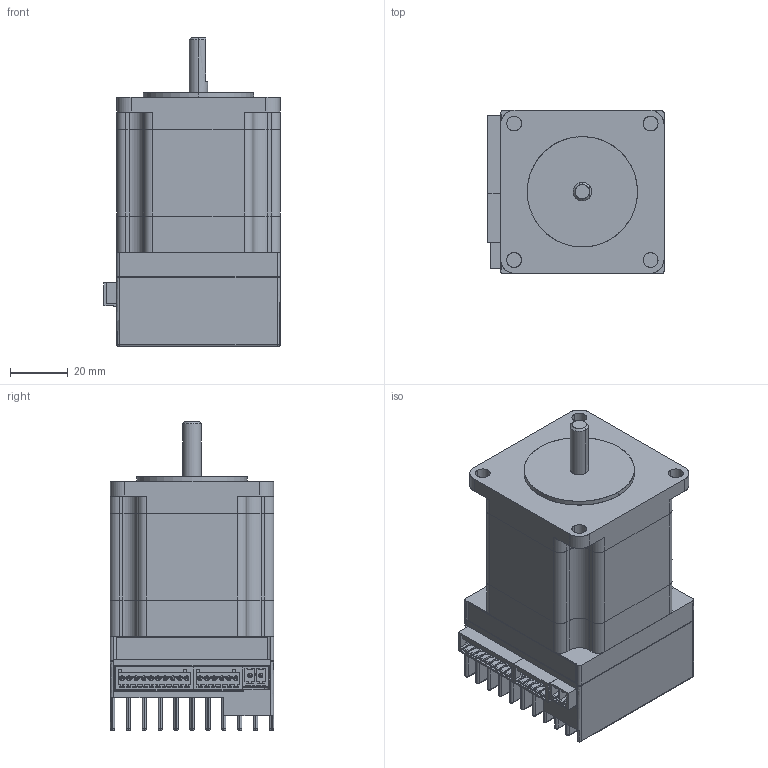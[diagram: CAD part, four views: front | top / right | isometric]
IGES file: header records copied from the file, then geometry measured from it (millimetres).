
Start section: SolidWorks IGES file using analytic representation for surfaces
Global section: file name: C:\Work\Sevotronix\NEMA 23 controller\CAD\2nd version\Drawings and model for marketing\stepIM_IST-23S12CO10.IGS; native system: SolidWorks 2013; preprocessor: SolidWorks 2013; author: owner; date: 150511.003805; units: millimetre
Bounding box: 60.8 x 56.4 x 106.6 mm (x, y, z)
Surface area: 74458.1 mm2 (no closed solid volume)
Topology: 0 solids, 0 shells, 1850 faces, 16685 edges, 16681 vertices
Faces by surface type: bspline 1244, revolution 606
